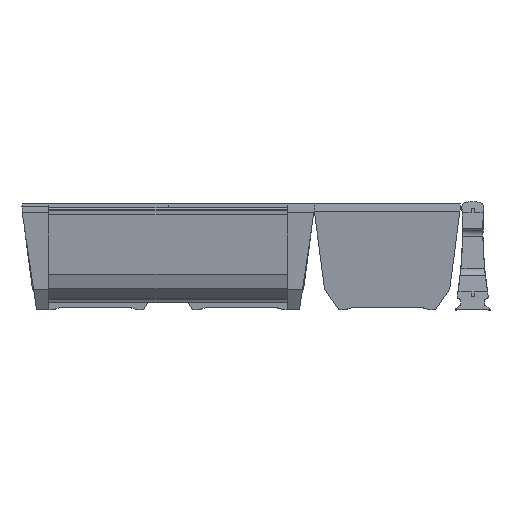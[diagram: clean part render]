
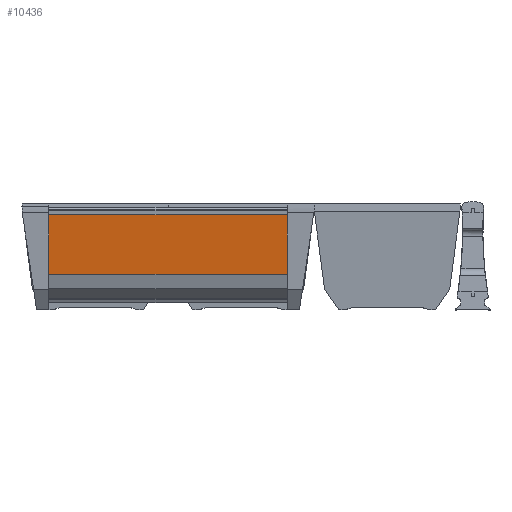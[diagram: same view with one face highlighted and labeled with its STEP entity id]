
A CAD part, front view. The second image highlights one B-rep face of the part: STEP entity #10436.
In plain terms, the highlighted planar face has unit normal (0, -0.991, -0.131).
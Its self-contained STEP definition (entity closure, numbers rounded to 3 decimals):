
#10436 = ADVANCED_FACE ( 'NONE', ( #20776 ), #19608, .F. ) ;
#17921 = AXIS2_PLACEMENT_3D ( 'NONE', #19607, #19617, #19618 ) ;
#19607 = CARTESIAN_POINT ( 'NONE',  ( 170., 8.199, 21.942 ) ) ;
#19608 = PLANE ( 'NONE',  #17921 ) ;
#19617 = DIRECTION ( 'NONE',  ( 0., 0.991, 0.131 ) ) ;
#19618 = DIRECTION ( 'NONE',  ( 0., -0.131, 0.991 ) ) ;
#20776 = FACE_OUTER_BOUND ( 'NONE', #41337, .T. ) ;
#30876 = ORIENTED_EDGE ( 'NONE', *, *, #46818, .F. ) ;
#30878 = ORIENTED_EDGE ( 'NONE', *, *, #46779, .T. ) ;
#30880 = ORIENTED_EDGE ( 'NONE', *, *, #46816, .F. ) ;
#30882 = ORIENTED_EDGE ( 'NONE', *, *, #46801, .F. ) ;
#34291 = VECTOR ( 'NONE', #35679, 1000. ) ;
#34318 = LINE ( 'NONE', #35672, #34291 ) ;
#34368 = LINE ( 'NONE', #35718, #34401 ) ;
#34401 = VECTOR ( 'NONE', #35726, 1000. ) ;
#34444 = LINE ( 'NONE', #35759, #34449 ) ;
#34447 = LINE ( 'NONE', #35763, #34453 ) ;
#34449 = VECTOR ( 'NONE', #35760, 1000. ) ;
#34453 = VECTOR ( 'NONE', #35764, 1000. ) ;
#35672 = CARTESIAN_POINT ( 'NONE',  ( 170., 2.926, 61.998 ) ) ;
#35679 = DIRECTION ( 'NONE',  ( -1., 0., 0. ) ) ;
#35718 = CARTESIAN_POINT ( 'NONE',  ( 170., 8.199, 21.942 ) ) ;
#35726 = DIRECTION ( 'NONE',  ( -1., 0., 0. ) ) ;
#35759 = CARTESIAN_POINT ( 'NONE',  ( 16.5, 8.199, 21.942 ) ) ;
#35760 = DIRECTION ( 'NONE',  ( 0., -0.131, 0.991 ) ) ;
#35763 = CARTESIAN_POINT ( 'NONE',  ( 164.5, 8.199, 21.942 ) ) ;
#35764 = DIRECTION ( 'NONE',  ( 0., 0.131, -0.991 ) ) ;
#38516 = CARTESIAN_POINT ( 'NONE',  ( 164.5, 2.926, 61.998 ) ) ;
#38517 = CARTESIAN_POINT ( 'NONE',  ( 164.5, 8.199, 21.942 ) ) ;
#38522 = CARTESIAN_POINT ( 'NONE',  ( 16.5, 8.199, 21.942 ) ) ;
#38581 = CARTESIAN_POINT ( 'NONE',  ( 16.5, 2.926, 61.998 ) ) ;
#41337 = EDGE_LOOP ( 'NONE', ( #30876, #30878, #30880, #30882 ) ) ;
#46779 = EDGE_CURVE ( 'NONE', #48995, #49060, #34318, .T. ) ;
#46801 = EDGE_CURVE ( 'NONE', #48996, #49001, #34368, .T. ) ;
#46816 = EDGE_CURVE ( 'NONE', #49001, #49060, #34444, .T. ) ;
#46818 = EDGE_CURVE ( 'NONE', #48995, #48996, #34447, .T. ) ;
#48995 = VERTEX_POINT ( 'NONE', #38516 ) ;
#48996 = VERTEX_POINT ( 'NONE', #38517 ) ;
#49001 = VERTEX_POINT ( 'NONE', #38522 ) ;
#49060 = VERTEX_POINT ( 'NONE', #38581 ) ;
